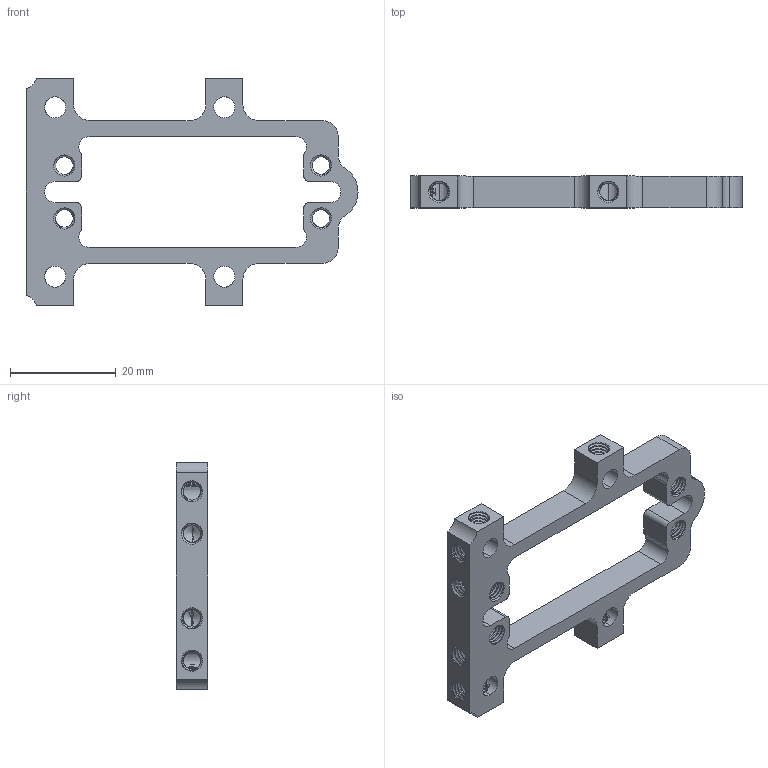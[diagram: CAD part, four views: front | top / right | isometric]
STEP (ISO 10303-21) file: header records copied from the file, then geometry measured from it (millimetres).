
FILE_DESCRIPTION (( 'STEP AP203' ), '1' );
FILE_NAME ('1802-0048-0001.STEP', '2017-04-25T21:04:25', ( '' ), ( '' ), 'SwSTEP 2.0', 'SolidWorks 2016', '' );
FILE_SCHEMA (( 'CONFIG_CONTROL_DESIGN' ));
Products named in the file (1): 1802-0048-0001
Bounding box: 62.75 x 6 x 43 mm (x, y, z)
Volume: 4763 mm3; surface area: 5105.1 mm2
Topology: 1 solids, 1 shells, 553 faces, 1613 edges, 1057 vertices
Faces by surface type: cylinder 404, bspline 61, cone 52, plane 36
Entity records: 89152 total; most frequent: CARTESIAN_POINT 77031, ORIENTED_EDGE 3214, DIRECTION 1820, EDGE_CURVE 1607, VERTEX_POINT 1057, AXIS2_PLACEMENT_3D 674, EDGE_LOOP 584, ADVANCED_FACE 553
